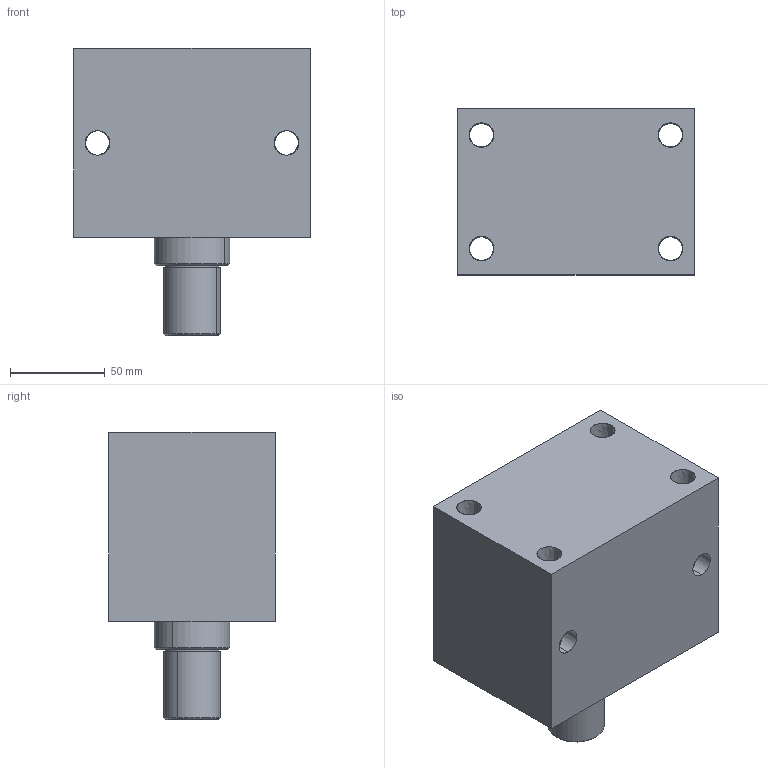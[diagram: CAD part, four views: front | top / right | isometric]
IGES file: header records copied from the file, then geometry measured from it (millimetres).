
Start section: SolidWorks IGES file using analytic representation for surfaces
Global section: file name: D:\karuppas\Clasp\3D model\Block cylinder B01C-Male thread - Copy\B01C-625M\Block cylinder B01C-625M.IGS; native system: SolidWorks 2017; preprocessor: SolidWorks 2017; author: pc; date: 220709.234455; units: millimetre
Bounding box: 125 x 88 x 152 mm (x, y, z)
Surface area: 112815.7 mm2 (no closed solid volume)
Topology: 0 solids, 0 shells, 352 faces, 5590 edges, 5586 vertices
Faces by surface type: bspline 298, revolution 54
